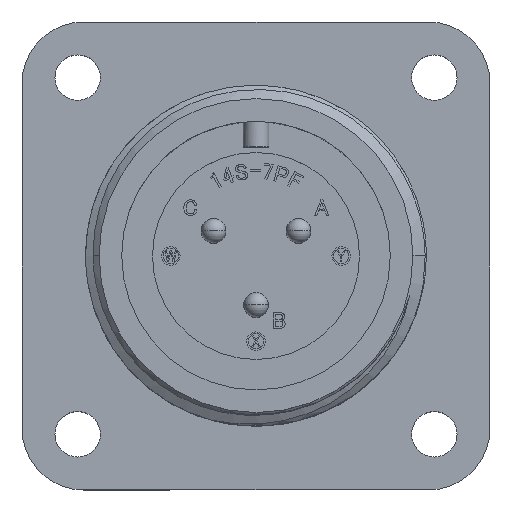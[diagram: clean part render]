
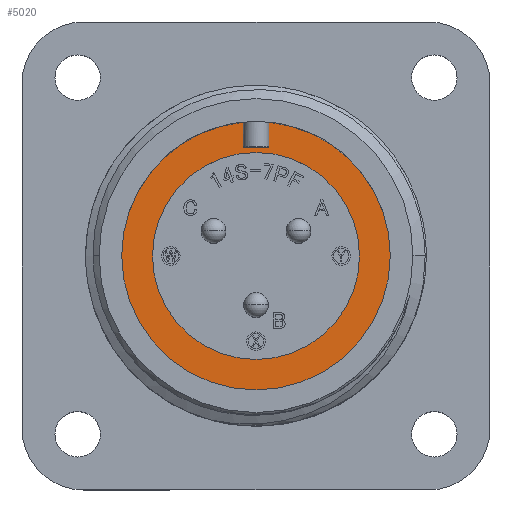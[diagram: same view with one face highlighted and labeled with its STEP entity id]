
A CAD part, top view. The second image highlights one B-rep face of the part: STEP entity #5020.
In plain terms, the highlighted planar face has unit normal (0, 0, 1).
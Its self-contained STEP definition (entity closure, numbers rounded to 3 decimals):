
#181 = CARTESIAN_POINT ( 'NONE',  ( 0., 8.67, -14.3 ) ) ;
#1121 = VECTOR ( 'NONE', #12053, 1000. ) ;
#2727 = AXIS2_PLACEMENT_3D ( 'NONE', #37099, #16820, #40512 ) ;
#2790 = AXIS2_PLACEMENT_3D ( 'NONE', #181, #30763, #10469 ) ;
#3180 = AXIS2_PLACEMENT_3D ( 'NONE', #33681, #13451, #37083 ) ;
#3245 = CARTESIAN_POINT ( 'NONE',  ( 0., 0., -14.3 ) ) ;
#3794 = CARTESIAN_POINT ( 'NONE',  ( 0., 0., -14.3 ) ) ;
#5020 = ADVANCED_FACE ( 'NONE', ( #8000, #26017 ), #6917, .T. ) ;
#5123 = CIRCLE ( 'NONE', #41781, 8.67 ) ;
#6537 = EDGE_CURVE ( 'NONE', #39846, #21194, #22709, .T. ) ;
#6698 = DIRECTION ( 'NONE',  ( 1., 0., 0. ) ) ;
#6917 = PLANE ( 'NONE',  #2790 ) ;
#7246 = DIRECTION ( 'NONE',  ( 1., 0., 0. ) ) ;
#8000 = FACE_BOUND ( 'NONE', #40372, .T. ) ;
#8651 = CARTESIAN_POINT ( 'NONE',  ( 0., 0., -14.3 ) ) ;
#8708 = CIRCLE ( 'NONE', #23026, 8.67 ) ;
#9020 = ORIENTED_EDGE ( 'NONE', *, *, #22078, .T. ) ;
#10289 = CARTESIAN_POINT ( 'NONE',  ( 6.68, 0., -14.3 ) ) ;
#10469 = DIRECTION ( 'NONE',  ( 1., 0., 0. ) ) ;
#10638 = EDGE_CURVE ( 'NONE', #21194, #39846, #31645, .T. ) ;
#10991 = EDGE_CURVE ( 'NONE', #19115, #37457, #5123, .T. ) ;
#12050 = DIRECTION ( 'NONE',  ( 1., 0., 0. ) ) ;
#12053 = DIRECTION ( 'NONE',  ( 0., -1., 0. ) ) ;
#12338 = CIRCLE ( 'NONE', #2727, 8.67 ) ;
#12449 = ORIENTED_EDGE ( 'NONE', *, *, #32696, .T. ) ;
#13451 = DIRECTION ( 'NONE',  ( 0., 0., 1. ) ) ;
#13483 = VECTOR ( 'NONE', #17124, 1000. ) ;
#13703 = ORIENTED_EDGE ( 'NONE', *, *, #23576, .T. ) ;
#13772 = CARTESIAN_POINT ( 'NONE',  ( 8.67, 0., -14.3 ) ) ;
#13783 = CARTESIAN_POINT ( 'NONE',  ( 0.825, 500000., -14.3 ) ) ;
#15266 = ORIENTED_EDGE ( 'NONE', *, *, #10991, .T. ) ;
#16107 = EDGE_CURVE ( 'NONE', #24548, #19115, #12338, .T. ) ;
#16820 = DIRECTION ( 'NONE',  ( 0., 0., 1. ) ) ;
#17124 = DIRECTION ( 'NONE',  ( 0., -1., 0. ) ) ;
#18217 = VECTOR ( 'NONE', #19928, 1000. ) ;
#18352 = CARTESIAN_POINT ( 'NONE',  ( -6.68, 0., -14.3 ) ) ;
#19115 = VERTEX_POINT ( 'NONE', #29605 ) ;
#19573 = CARTESIAN_POINT ( 'NONE',  ( -0.825, 7.03, -14.3 ) ) ;
#19928 = DIRECTION ( 'NONE',  ( -1., 0., 0. ) ) ;
#20305 = ORIENTED_EDGE ( 'NONE', *, *, #39577, .F. ) ;
#20707 = AXIS2_PLACEMENT_3D ( 'NONE', #3245, #26991, #6698 ) ;
#21194 = VERTEX_POINT ( 'NONE', #10289 ) ;
#22078 = EDGE_CURVE ( 'NONE', #38760, #25684, #35162, .T. ) ;
#22709 = CIRCLE ( 'NONE', #20707, 6.68 ) ;
#23026 = AXIS2_PLACEMENT_3D ( 'NONE', #3794, #27532, #7246 ) ;
#23183 = CARTESIAN_POINT ( 'NONE',  ( 0.825, 7.03, -14.3 ) ) ;
#23576 = EDGE_CURVE ( 'NONE', #37457, #25354, #8708, .T. ) ;
#24548 = VERTEX_POINT ( 'NONE', #43562 ) ;
#25354 = VERTEX_POINT ( 'NONE', #25443 ) ;
#25443 = CARTESIAN_POINT ( 'NONE',  ( 0.825, 8.631, -14.3 ) ) ;
#25544 = CARTESIAN_POINT ( 'NONE',  ( -0.825, 500000., -14.3 ) ) ;
#25684 = VERTEX_POINT ( 'NONE', #19573 ) ;
#26017 = FACE_OUTER_BOUND ( 'NONE', #37609, .T. ) ;
#26991 = DIRECTION ( 'NONE',  ( 0., 0., 1. ) ) ;
#27532 = DIRECTION ( 'NONE',  ( 0., 0., 1. ) ) ;
#29605 = CARTESIAN_POINT ( 'NONE',  ( -8.67, 0., -14.3 ) ) ;
#30763 = DIRECTION ( 'NONE',  ( 0., 0., 1. ) ) ;
#31645 = CIRCLE ( 'NONE', #3180, 6.68 ) ;
#32313 = DIRECTION ( 'NONE',  ( 0., 0., 1. ) ) ;
#32696 = EDGE_CURVE ( 'NONE', #25354, #38760, #39388, .T. ) ;
#33681 = CARTESIAN_POINT ( 'NONE',  ( 0., 0., -14.3 ) ) ;
#34006 = LINE ( 'NONE', #25544, #1121 ) ;
#34995 = ORIENTED_EDGE ( 'NONE', *, *, #16107, .T. ) ;
#35162 = LINE ( 'NONE', #23183, #18217 ) ;
#37083 = DIRECTION ( 'NONE',  ( 1., 0., 0. ) ) ;
#37099 = CARTESIAN_POINT ( 'NONE',  ( 0., 0., -14.3 ) ) ;
#37457 = VERTEX_POINT ( 'NONE', #13772 ) ;
#37609 = EDGE_LOOP ( 'NONE', ( #34995, #15266, #13703, #12449, #9020, #20305 ) ) ;
#38352 = CARTESIAN_POINT ( 'NONE',  ( 0.825, 7.03, -14.3 ) ) ;
#38760 = VERTEX_POINT ( 'NONE', #38352 ) ;
#39388 = LINE ( 'NONE', #13783, #13483 ) ;
#39577 = EDGE_CURVE ( 'NONE', #24548, #25684, #34006, .T. ) ;
#39846 = VERTEX_POINT ( 'NONE', #18352 ) ;
#40240 = ORIENTED_EDGE ( 'NONE', *, *, #10638, .F. ) ;
#40372 = EDGE_LOOP ( 'NONE', ( #40240, #41846 ) ) ;
#40512 = DIRECTION ( 'NONE',  ( 1., 0., 0. ) ) ;
#41781 = AXIS2_PLACEMENT_3D ( 'NONE', #8651, #32313, #12050 ) ;
#41846 = ORIENTED_EDGE ( 'NONE', *, *, #6537, .F. ) ;
#43562 = CARTESIAN_POINT ( 'NONE',  ( -0.825, 8.631, -14.3 ) ) ;
